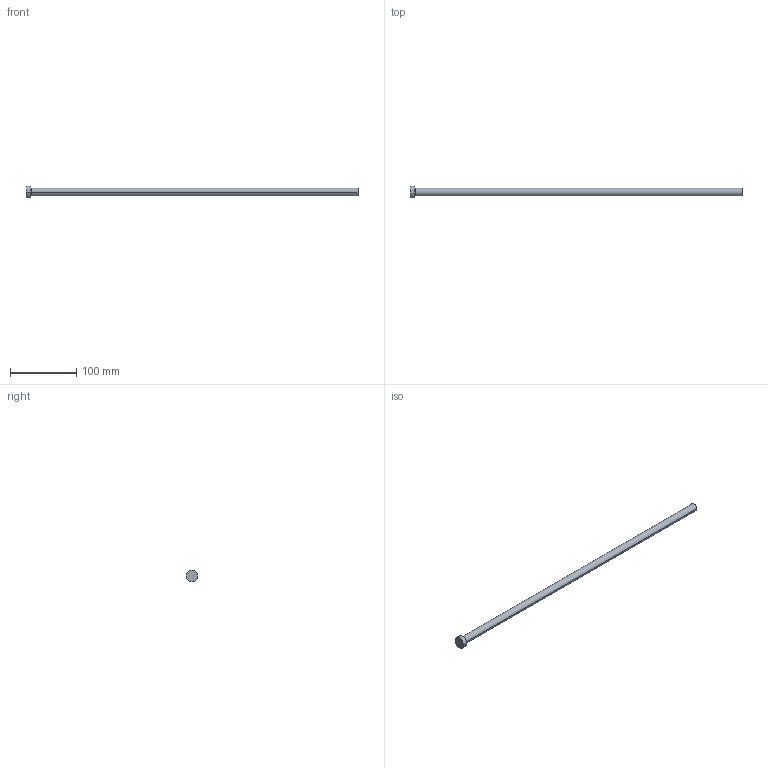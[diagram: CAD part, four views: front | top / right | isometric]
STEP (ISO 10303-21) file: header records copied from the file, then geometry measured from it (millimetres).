
FILE_DESCRIPTION (( 'STEP AP214' ), '1' );
FILE_NAME ('A-12x500.STEP', '2020-05-29T16:14:07', ( 'August' ), ( '' ), 'SwSTEP 2.0', 'SolidWorks 2018', '' );
FILE_SCHEMA (( 'AUTOMOTIVE_DESIGN' ));
Length unit declared in the file: millimetre
Products named in the file (1): A-12x500
Bounding box: 500 x 18 x 18 mm (x, y, z)
Volume: 57543.6 mm3; surface area: 19477.8 mm2
Topology: 1 solids, 1 shells, 9 faces, 16 edges, 10 vertices
Faces by surface type: cylinder 4, plane 3, torus 2
Entity records: 260 total; most frequent: DIRECTION 48, CARTESIAN_POINT 36, ORIENTED_EDGE 32, AXIS2_PLACEMENT_3D 22, EDGE_CURVE 16, CIRCLE 12, EDGE_LOOP 10, VERTEX_POINT 10
